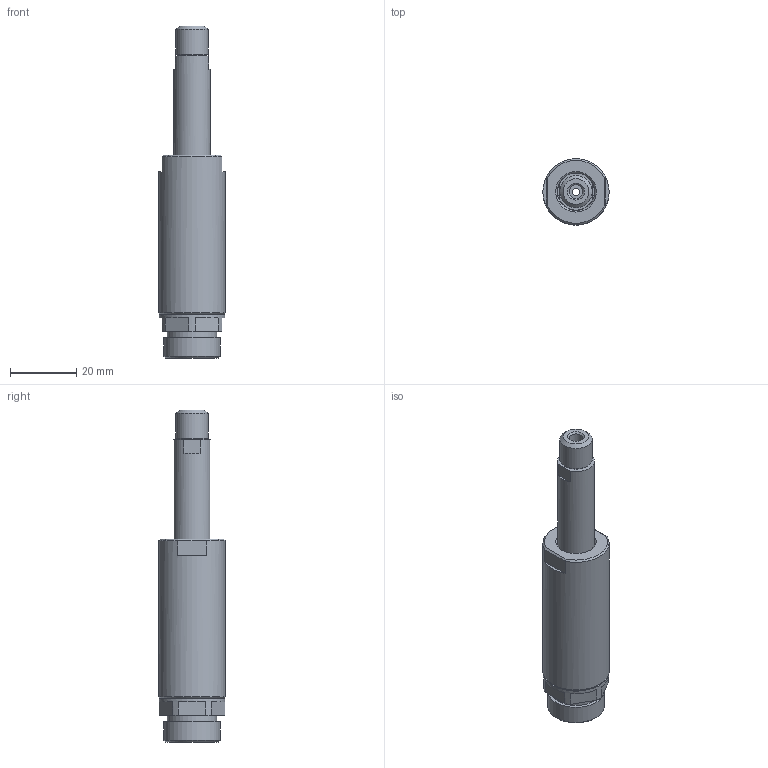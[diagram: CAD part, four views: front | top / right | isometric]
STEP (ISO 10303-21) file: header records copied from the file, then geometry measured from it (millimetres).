
FILE_DESCRIPTION(('STEP AP214'),'1');
FILE_NAME('CA.SAR.2025.stp','2016-08-31T07:07:00',(' '),(' '),'Spatial InterOp 3D',' ',' ');
FILE_SCHEMA(('automotive_design'));
Length unit declared in the file: millimetre
Products named in the file (6): OR.2056; VSS.2025.1; VSS.2025.2; M.8X75; VSS.20.3
Assembly tree (5 placements, depth 2):
  (unnamed)
    OR.2056
    VSS.2025.1
    VSS.2025.2
    M.8X75
    VSS.20.3
Bounding box: 20 x 20 x 100.1 mm (x, y, z)
Volume: 15122.1 mm3; surface area: 12973.2 mm2
Topology: 5 solids, 5 shells, 80 faces, 171 edges, 111 vertices
Faces by surface type: plane 45, cylinder 21, cone 12, torus 1, bspline 1
Full cylindrical faces by diameter (mm): 2.2 x1, 4.134 x1, 4.9 x1, 7.7 x1, 7.8 x1, 8.566 x1, 8.6 x1, 9.728 x1, 11.16 x1, 11.2 x1, 14.1 x1, 14.44 x1, 14.5 x1, 15 x2, 15.917 x1, 17 x2, 19.8 x1, 20 x1
Entity records: 7604 total; most frequent: CARTESIAN_POINT 5250, DIRECTION 360, ORIENTED_EDGE 254, AXIS2_PLACEMENT_3D 157, EDGE_LOOP 130, EDGE_CURVE 127, FACE_OUTER_BOUND 101, VERTEX_POINT 99
